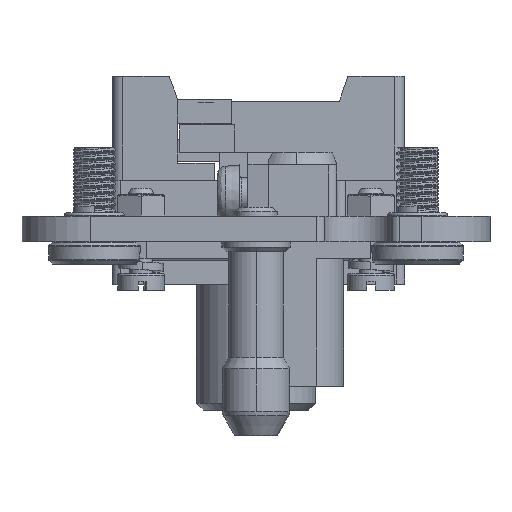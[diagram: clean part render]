
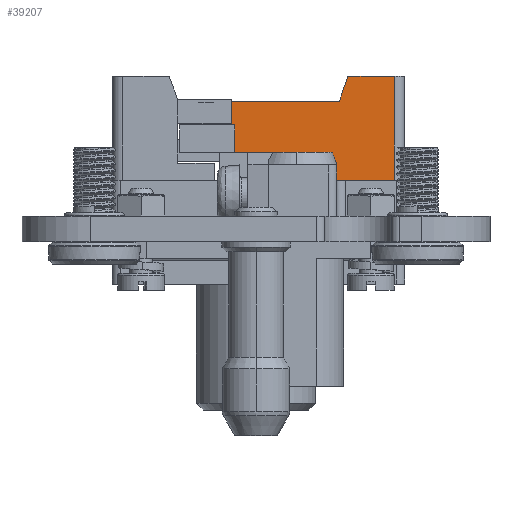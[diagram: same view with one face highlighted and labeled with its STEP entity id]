
A CAD part, front view. The second image highlights one B-rep face of the part: STEP entity #39207.
In plain terms, the highlighted planar face has unit normal (0, -1, 0).
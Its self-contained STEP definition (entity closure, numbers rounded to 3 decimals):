
#881 = LINE ( 'NONE', #8136, #25139 ) ;
#896 = CARTESIAN_POINT ( 'NONE',  ( 16.25, -46.75, 7.2 ) ) ;
#1454 = EDGE_CURVE ( 'NONE', #13874, #34950, #54827, .T. ) ;
#1489 = EDGE_CURVE ( 'NONE', #55370, #10870, #48053, .T. ) ;
#1813 = VECTOR ( 'NONE', #46054, 1000. ) ;
#3693 = CARTESIAN_POINT ( 'NONE',  ( 15.5, -46.75, 13.7 ) ) ;
#5753 = EDGE_CURVE ( 'NONE', #33218, #57514, #31803, .T. ) ;
#7783 = VECTOR ( 'NONE', #37789, 1000. ) ;
#8136 = CARTESIAN_POINT ( 'NONE',  ( 15.5, -46.75, 7.2 ) ) ;
#8601 = ORIENTED_EDGE ( 'NONE', *, *, #53642, .T. ) ;
#9462 = VECTOR ( 'NONE', #17433, 1000. ) ;
#10870 = VERTEX_POINT ( 'NONE', #28305 ) ;
#11719 = CARTESIAN_POINT ( 'NONE',  ( 15.5, -46.75, 10.5 ) ) ;
#11951 = EDGE_CURVE ( 'NONE', #30751, #33129, #19857, .T. ) ;
#13874 = VERTEX_POINT ( 'NONE', #43402 ) ;
#14105 = ORIENTED_EDGE ( 'NONE', *, *, #1454, .F. ) ;
#15369 = CARTESIAN_POINT ( 'NONE',  ( -2.5, -46.75, 10.5 ) ) ;
#15866 = ORIENTED_EDGE ( 'NONE', *, *, #34736, .T. ) ;
#16092 = CARTESIAN_POINT ( 'NONE',  ( 16.25, -46.75, 19.4 ) ) ;
#17433 = DIRECTION ( 'NONE',  ( 1., 0., 0. ) ) ;
#17680 = CARTESIAN_POINT ( 'NONE',  ( -2.9, -46.75, 13.7 ) ) ;
#17746 = DIRECTION ( 'NONE',  ( 0., 0., -1. ) ) ;
#17766 = CARTESIAN_POINT ( 'NONE',  ( -2.9, -46.75, 16.5 ) ) ;
#17994 = AXIS2_PLACEMENT_3D ( 'NONE', #57823, #28486, #52290 ) ;
#18528 = PLANE ( 'NONE',  #17994 ) ;
#18613 = ORIENTED_EDGE ( 'NONE', *, *, #49792, .F. ) ;
#19857 = LINE ( 'NONE', #57407, #7783 ) ;
#20038 = CARTESIAN_POINT ( 'NONE',  ( 6., -46.75, 17.2 ) ) ;
#20921 = CARTESIAN_POINT ( 'NONE',  ( 6., -46.75, 7.2 ) ) ;
#22113 = CARTESIAN_POINT ( 'NONE',  ( 15.5, -46.75, 19.4 ) ) ;
#22439 = ORIENTED_EDGE ( 'NONE', *, *, #62176, .F. ) ;
#22814 = CARTESIAN_POINT ( 'NONE',  ( 9.8, -46.75, 16.5 ) ) ;
#24661 = LINE ( 'NONE', #38555, #54062 ) ;
#25139 = VECTOR ( 'NONE', #43575, 1000. ) ;
#26394 = EDGE_CURVE ( 'NONE', #10870, #56567, #24661, .T. ) ;
#27186 = DIRECTION ( 'NONE',  ( 1., 0., 0. ) ) ;
#27679 = DIRECTION ( 'NONE',  ( 0.326, 0., 0.945 ) ) ;
#28304 = LINE ( 'NONE', #55557, #1813 ) ;
#28305 = CARTESIAN_POINT ( 'NONE',  ( -2.5, -46.75, 13.7 ) ) ;
#28486 = DIRECTION ( 'NONE',  ( 0., -1., 0. ) ) ;
#30649 = CARTESIAN_POINT ( 'NONE',  ( 9.8, -46.75, 16.5 ) ) ;
#30751 = VERTEX_POINT ( 'NONE', #30649 ) ;
#31803 = LINE ( 'NONE', #20038, #32577 ) ;
#32577 = VECTOR ( 'NONE', #43673, 1000. ) ;
#33129 = VERTEX_POINT ( 'NONE', #17766 ) ;
#33218 = VERTEX_POINT ( 'NONE', #60884 ) ;
#34589 = EDGE_LOOP ( 'NONE', ( #8601, #57925, #61139, #22439, #14105, #18613, #52180, #15866, #35462, #49762 ) ) ;
#34736 = EDGE_CURVE ( 'NONE', #33129, #55370, #28304, .T. ) ;
#34950 = VERTEX_POINT ( 'NONE', #16092 ) ;
#35462 = ORIENTED_EDGE ( 'NONE', *, *, #1489, .T. ) ;
#36230 = VECTOR ( 'NONE', #27679, 1000. ) ;
#37386 = VECTOR ( 'NONE', #45075, 1000. ) ;
#37789 = DIRECTION ( 'NONE',  ( -1., 0., 0. ) ) ;
#38146 = EDGE_CURVE ( 'NONE', #57514, #48921, #881, .T. ) ;
#38555 = CARTESIAN_POINT ( 'NONE',  ( -2.5, -46.75, 17.2 ) ) ;
#39207 = ADVANCED_FACE ( 'NONE', ( #62037 ), #18528, .T. ) ;
#40775 = LINE ( 'NONE', #22814, #36230 ) ;
#41974 = VECTOR ( 'NONE', #27186, 1000. ) ;
#43402 = CARTESIAN_POINT ( 'NONE',  ( 10.8, -46.75, 19.4 ) ) ;
#43575 = DIRECTION ( 'NONE',  ( 1., 0., 0. ) ) ;
#43673 = DIRECTION ( 'NONE',  ( 0., 0., -1. ) ) ;
#45075 = DIRECTION ( 'NONE',  ( 1., 0., 0. ) ) ;
#46054 = DIRECTION ( 'NONE',  ( 0., 0., -1. ) ) ;
#48053 = LINE ( 'NONE', #3693, #9462 ) ;
#48921 = VERTEX_POINT ( 'NONE', #896 ) ;
#49762 = ORIENTED_EDGE ( 'NONE', *, *, #26394, .T. ) ;
#49792 = EDGE_CURVE ( 'NONE', #30751, #13874, #40775, .T. ) ;
#52180 = ORIENTED_EDGE ( 'NONE', *, *, #11951, .T. ) ;
#52290 = DIRECTION ( 'NONE',  ( 1., 0., 0. ) ) ;
#52850 = DIRECTION ( 'NONE',  ( 0., 0., -1. ) ) ;
#53218 = LINE ( 'NONE', #11719, #37386 ) ;
#53350 = VECTOR ( 'NONE', #17746, 1000. ) ;
#53642 = EDGE_CURVE ( 'NONE', #56567, #33218, #53218, .T. ) ;
#54062 = VECTOR ( 'NONE', #52850, 1000. ) ;
#54827 = LINE ( 'NONE', #22113, #41974 ) ;
#55370 = VERTEX_POINT ( 'NONE', #17680 ) ;
#55557 = CARTESIAN_POINT ( 'NONE',  ( -2.9, -46.75, 17.2 ) ) ;
#56567 = VERTEX_POINT ( 'NONE', #15369 ) ;
#57265 = CARTESIAN_POINT ( 'NONE',  ( 16.25, -46.75, 17.2 ) ) ;
#57407 = CARTESIAN_POINT ( 'NONE',  ( 15.5, -46.75, 16.5 ) ) ;
#57514 = VERTEX_POINT ( 'NONE', #20921 ) ;
#57823 = CARTESIAN_POINT ( 'NONE',  ( 15.5, -46.75, 17.2 ) ) ;
#57925 = ORIENTED_EDGE ( 'NONE', *, *, #5753, .T. ) ;
#57951 = LINE ( 'NONE', #57265, #53350 ) ;
#60884 = CARTESIAN_POINT ( 'NONE',  ( 6., -46.75, 10.5 ) ) ;
#61139 = ORIENTED_EDGE ( 'NONE', *, *, #38146, .T. ) ;
#62037 = FACE_OUTER_BOUND ( 'NONE', #34589, .T. ) ;
#62176 = EDGE_CURVE ( 'NONE', #34950, #48921, #57951, .T. ) ;
